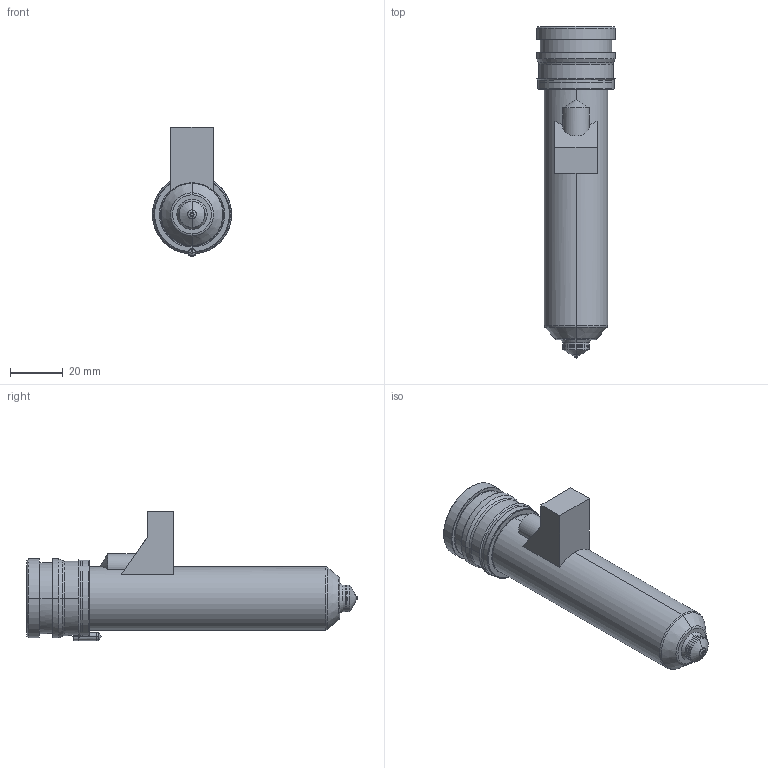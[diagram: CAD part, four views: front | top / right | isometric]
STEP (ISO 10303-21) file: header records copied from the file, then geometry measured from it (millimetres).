
FILE_DESCRIPTION((''),'2;1');
FILE_NAME('MPN-10-29-VSA10-106-M','2026-02-05T13:00:46',('UPTIO'),('Thermoplay S.p.A.'),'CREO PARAMETRIC BY PTC INC, 2023494','CREO PARAMETRIC BY PTC INC, 2023494','');
FILE_SCHEMA(('CONFIG_CONTROL_DESIGN','SHAPE_APPEARANCE_LAYERS_GROUPS'));
Length unit declared in the file: millimetre
Products named in the file (1): MPN-10-29-VSA10-106-M
Bounding box: 30 x 126 x 49 mm (x, y, z)
Volume: 40085.1 mm3; surface area: 41196.5 mm2
Topology: 3 solids, 5 shells, 546 faces, 1379 edges, 839 vertices
Faces by surface type: cylinder 181, plane 145, bspline 71, torus 69, cone 68, sphere 8, extrusion 4
Entity records: 26642 total; most frequent: CARTESIAN_POINT 10778, ORIENTED_EDGE 2744, DIRECTION 2618, EDGE_CURVE 1372, AXIS2_PLACEMENT_3D 1038, VERTEX_POINT 839, EDGE_LOOP 575, CIRCLE 566
